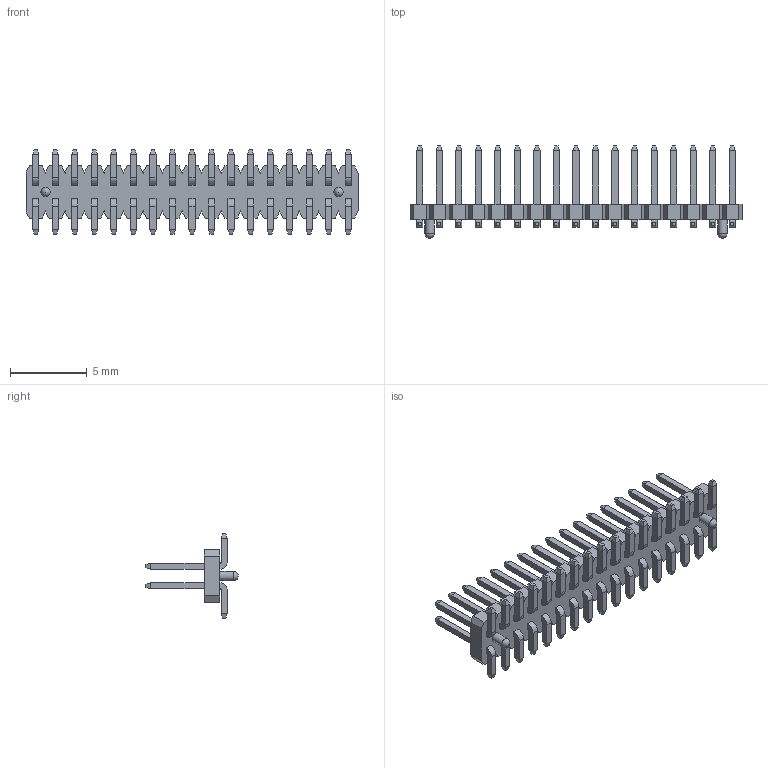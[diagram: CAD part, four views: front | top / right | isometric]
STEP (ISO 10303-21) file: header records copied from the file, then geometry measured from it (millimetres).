
FILE_DESCRIPTION(/* description */ (''),/* implementation_level */ '2;1');
FILE_NAME(/* name */ 'PZ127-2-17-S-1.0-XX(L5.3) (1.27 双排 排针 贴片 塑高1.0-HCTL).stp',/* time_stamp */ '2026-10-22T16:22:53+08:00',/* author */ (''),/* organization */ (''),/* preprocessor_version */ 'ST-DEVELOPER v16',/* originating_system */ 'SIEMENS PLM Software NX 10.0',/* authorisation */ '');
FILE_SCHEMA (('AUTOMOTIVE_DESIGN { 1 0 10303 214 3 1 1 1 }'));
Length unit declared in the file: millimetre
Products named in the file (1): PZ127-2-03-S-1.0-XX_L5.5_ _1.27 双排 排针 \X2\8D34
7247\X0\ 塑高1.0-HCTL__step
Bounding box: 21.59 x 6 x 5.5 mm (x, y, z)
Volume: 102.4 mm3; surface area: 529.9 mm2
Topology: 1 solids, 1 shells, 822 faces, 1984 edges, 1232 vertices
Faces by surface type: plane 750, cylinder 70, sphere 2
Full cylindrical faces by diameter (mm): 0.6 x2
Entity records: 27941 total; most frequent: CARTESIAN_POINT 4027, ORIENTED_EDGE 3952, DIRECTION 3762, EDGE_CURVE 1976, LINE 1836, VECTOR 1836, VERTEX_POINT 1228, AXIS2_PLACEMENT_3D 963
